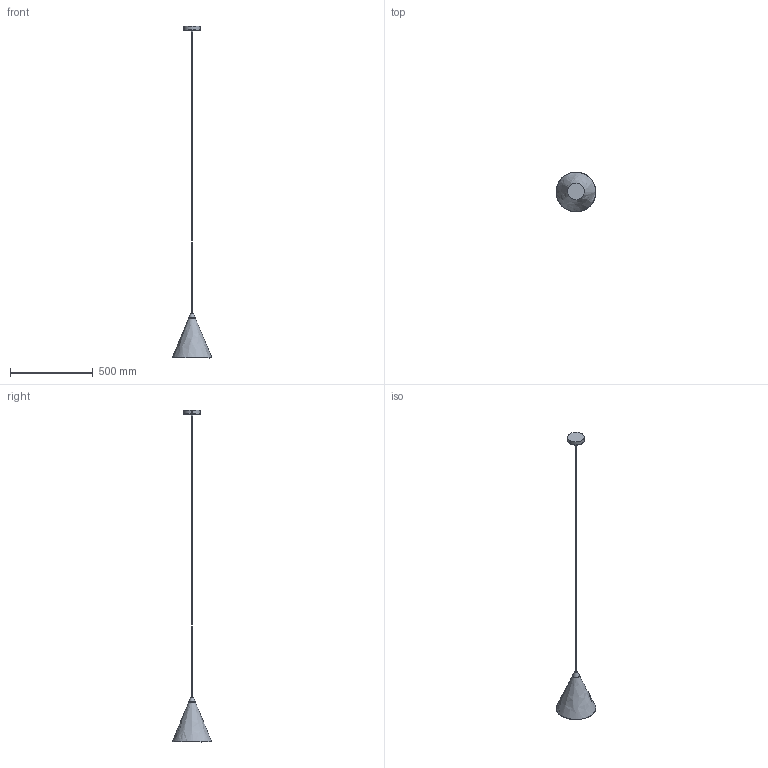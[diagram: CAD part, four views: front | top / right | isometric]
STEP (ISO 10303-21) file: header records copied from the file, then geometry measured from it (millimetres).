
FILE_DESCRIPTION ((), '1');
FILE_NAME ('C:\Users\MiCHAL\Desktop\ALDEX - Modele 3D 09.03.2023\1108G1\1108G1\1108G1.stp', '2023-03-30T11:16:00', ('Unknown'), ('Unknown'), 'HarmonyWare STEP v2.1.4', 'HarmonyWare Translators', '');
FILE_SCHEMA (('CONFIG_CONTROL_DESIGN'));
Length unit declared in the file: centimetre
Assembly tree (8 placements, depth 2):
  (unnamed)
    (unnamed)
    (unnamed)
    (unnamed)
    (unnamed)
    (unnamed)
    (unnamed)
    (unnamed)
    (unnamed)
Bounding box: 239.35 x 239.33 x 2000.38 mm (x, y, z)
Volume: 249868.4 mm3; surface area: 283645.2 mm2
Topology: 6 solids, 8 shells, 32 faces, 57 edges, 44 vertices
Faces by surface type: bspline 32
Entity records: 3865 total; most frequent: CARTESIAN_POINT 2224, ORIENTED_EDGE 91, PERSON 88, ORGANIZATION 88, PERSON_AND_ORGANIZATION 88, CALENDAR_DATE 61, COORDINATED_UNIVERSAL_TIME_OFFSET 61, LOCAL_TIME 61
